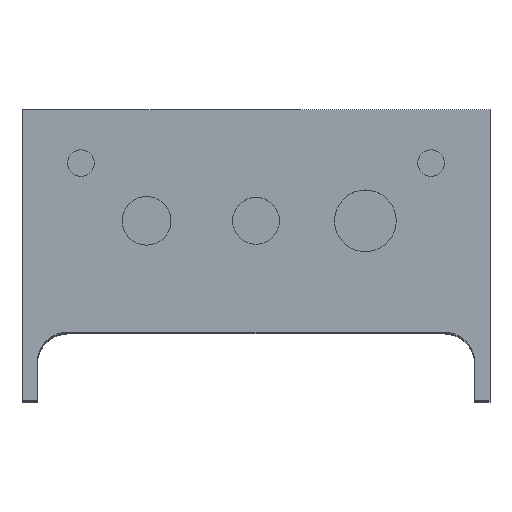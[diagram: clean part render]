
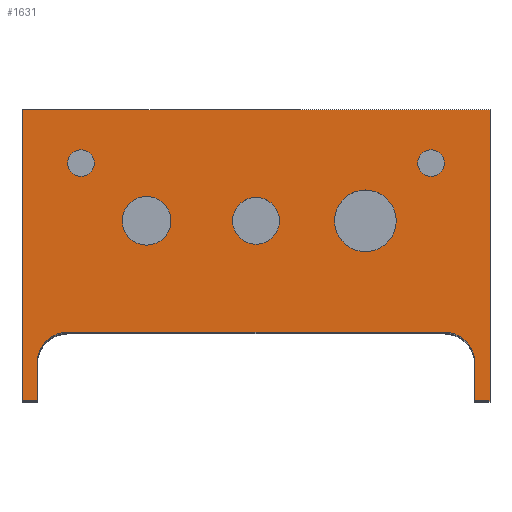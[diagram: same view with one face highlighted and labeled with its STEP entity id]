
A CAD part, top view. The second image highlights one B-rep face of the part: STEP entity #1631.
In plain terms, the highlighted planar face has unit normal (0, 0, 1).
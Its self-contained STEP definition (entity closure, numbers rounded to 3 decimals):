
#40=FACE_BOUND('',#320,.T.);
#41=FACE_BOUND('',#321,.T.);
#42=FACE_BOUND('',#322,.T.);
#43=FACE_BOUND('',#323,.T.);
#44=FACE_BOUND('',#324,.T.);
#81=CIRCLE('',#1762,6.15);
#83=CIRCLE('',#1765,6.4);
#85=CIRCLE('',#1768,8.1);
#87=CIRCLE('',#1771,3.5);
#89=CIRCLE('',#1774,3.5);
#109=CIRCLE('',#1813,8.);
#110=CIRCLE('',#1814,8.);
#221=FACE_OUTER_BOUND('',#319,.T.);
#319=EDGE_LOOP('',(#1409,#1410,#1411,#1412,#1413,#1414,#1415,#1416,#1417,
#1418));
#320=EDGE_LOOP('',(#1419));
#321=EDGE_LOOP('',(#1420));
#322=EDGE_LOOP('',(#1421));
#323=EDGE_LOOP('',(#1422));
#324=EDGE_LOOP('',(#1423));
#468=LINE('',#2671,#635);
#492=LINE('',#2739,#659);
#493=LINE('',#2740,#660);
#494=LINE('',#2742,#661);
#495=LINE('',#2744,#662);
#496=LINE('',#2746,#663);
#497=LINE('',#2750,#664);
#498=LINE('',#2753,#665);
#635=VECTOR('',#2176,10.);
#659=VECTOR('',#2242,10.);
#660=VECTOR('',#2243,10.);
#661=VECTOR('',#2244,10.);
#662=VECTOR('',#2245,10.);
#663=VECTOR('',#2246,10.);
#664=VECTOR('',#2249,10.);
#665=VECTOR('',#2252,10.);
#757=VERTEX_POINT('',#2568);
#759=VERTEX_POINT('',#2574);
#761=VERTEX_POINT('',#2580);
#763=VERTEX_POINT('',#2586);
#765=VERTEX_POINT('',#2592);
#796=VERTEX_POINT('',#2668);
#797=VERTEX_POINT('',#2670);
#819=VERTEX_POINT('',#2737);
#820=VERTEX_POINT('',#2738);
#821=VERTEX_POINT('',#2741);
#822=VERTEX_POINT('',#2743);
#823=VERTEX_POINT('',#2745);
#824=VERTEX_POINT('',#2747);
#825=VERTEX_POINT('',#2749);
#826=VERTEX_POINT('',#2751);
#948=EDGE_CURVE('',#757,#757,#81,.T.);
#951=EDGE_CURVE('',#759,#759,#83,.T.);
#954=EDGE_CURVE('',#761,#761,#85,.T.);
#957=EDGE_CURVE('',#763,#763,#87,.T.);
#960=EDGE_CURVE('',#765,#765,#89,.T.);
#999=EDGE_CURVE('',#797,#796,#468,.T.);
#1032=EDGE_CURVE('',#819,#820,#492,.T.);
#1033=EDGE_CURVE('',#820,#797,#493,.T.);
#1034=EDGE_CURVE('',#796,#821,#494,.T.);
#1035=EDGE_CURVE('',#821,#822,#495,.T.);
#1036=EDGE_CURVE('',#822,#823,#496,.T.);
#1037=EDGE_CURVE('',#823,#824,#109,.T.);
#1038=EDGE_CURVE('',#824,#825,#497,.T.);
#1039=EDGE_CURVE('',#825,#826,#110,.T.);
#1040=EDGE_CURVE('',#826,#819,#498,.T.);
#1409=ORIENTED_EDGE('',*,*,#1032,.T.);
#1410=ORIENTED_EDGE('',*,*,#1033,.T.);
#1411=ORIENTED_EDGE('',*,*,#999,.T.);
#1412=ORIENTED_EDGE('',*,*,#1034,.T.);
#1413=ORIENTED_EDGE('',*,*,#1035,.T.);
#1414=ORIENTED_EDGE('',*,*,#1036,.T.);
#1415=ORIENTED_EDGE('',*,*,#1037,.T.);
#1416=ORIENTED_EDGE('',*,*,#1038,.T.);
#1417=ORIENTED_EDGE('',*,*,#1039,.T.);
#1418=ORIENTED_EDGE('',*,*,#1040,.T.);
#1419=ORIENTED_EDGE('',*,*,#948,.T.);
#1420=ORIENTED_EDGE('',*,*,#951,.T.);
#1421=ORIENTED_EDGE('',*,*,#954,.T.);
#1422=ORIENTED_EDGE('',*,*,#957,.T.);
#1423=ORIENTED_EDGE('',*,*,#960,.T.);
#1549=PLANE('',#1812);
#1631=ADVANCED_FACE('',(#221,#40,#41,#42,#43,#44),#1549,.T.);
#1762=AXIS2_PLACEMENT_3D('',#2569,#2084,#2085);
#1765=AXIS2_PLACEMENT_3D('',#2575,#2091,#2092);
#1768=AXIS2_PLACEMENT_3D('',#2581,#2098,#2099);
#1771=AXIS2_PLACEMENT_3D('',#2587,#2105,#2106);
#1774=AXIS2_PLACEMENT_3D('',#2593,#2112,#2113);
#1812=AXIS2_PLACEMENT_3D('',#2736,#2240,#2241);
#1813=AXIS2_PLACEMENT_3D('',#2748,#2247,#2248);
#1814=AXIS2_PLACEMENT_3D('',#2752,#2250,#2251);
#2084=DIRECTION('center_axis',(0.,0.,-1.));
#2085=DIRECTION('ref_axis',(1.,0.,0.));
#2091=DIRECTION('center_axis',(0.,0.,-1.));
#2092=DIRECTION('ref_axis',(1.,0.,0.));
#2098=DIRECTION('center_axis',(0.,0.,-1.));
#2099=DIRECTION('ref_axis',(1.,0.,0.));
#2105=DIRECTION('center_axis',(0.,0.,-1.));
#2106=DIRECTION('ref_axis',(1.,0.,0.));
#2112=DIRECTION('center_axis',(0.,0.,-1.));
#2113=DIRECTION('ref_axis',(1.,0.,0.));
#2176=DIRECTION('',(-1.,0.,0.));
#2240=DIRECTION('center_axis',(0.,0.,1.));
#2241=DIRECTION('ref_axis',(1.,0.,0.));
#2242=DIRECTION('',(1.,0.,0.));
#2243=DIRECTION('',(0.,1.,0.));
#2244=DIRECTION('',(0.,-1.,0.));
#2245=DIRECTION('',(1.,0.,0.));
#2246=DIRECTION('',(0.,1.,0.));
#2247=DIRECTION('center_axis',(0.,0.,-1.));
#2248=DIRECTION('ref_axis',(0.,1.,0.));
#2249=DIRECTION('',(1.,0.,0.));
#2250=DIRECTION('center_axis',(0.,0.,-1.));
#2251=DIRECTION('ref_axis',(1.,0.,0.));
#2252=DIRECTION('',(0.,-1.,0.));
#2568=CARTESIAN_POINT('',(51.35,25.25,64.));
#2569=CARTESIAN_POINT('Origin',(57.5,25.25,64.));
#2574=CARTESIAN_POINT('',(22.35,25.25,64.));
#2575=CARTESIAN_POINT('Origin',(28.75,25.25,64.));
#2580=CARTESIAN_POINT('',(78.15,25.25,64.));
#2581=CARTESIAN_POINT('Origin',(86.25,25.25,64.));
#2586=CARTESIAN_POINT('',(8.,40.4,64.));
#2587=CARTESIAN_POINT('Origin',(11.5,40.4,64.));
#2592=CARTESIAN_POINT('',(100.,40.4,64.));
#2593=CARTESIAN_POINT('Origin',(103.5,40.4,64.));
#2668=CARTESIAN_POINT('',(-4.,54.5,64.));
#2670=CARTESIAN_POINT('',(119.,54.5,64.));
#2671=CARTESIAN_POINT('',(-4.,54.5,64.));
#2736=CARTESIAN_POINT('Origin',(57.5,16.25,64.));
#2737=CARTESIAN_POINT('',(115.,-22.,64.));
#2738=CARTESIAN_POINT('',(119.,-22.,64.));
#2739=CARTESIAN_POINT('',(119.,-22.,64.));
#2740=CARTESIAN_POINT('',(119.,54.5,64.));
#2741=CARTESIAN_POINT('',(-4.,-22.,64.));
#2742=CARTESIAN_POINT('',(-4.,-22.,64.));
#2743=CARTESIAN_POINT('',(0.,-22.,64.));
#2744=CARTESIAN_POINT('',(0.,-22.,64.));
#2745=CARTESIAN_POINT('',(0.,-12.,64.));
#2746=CARTESIAN_POINT('',(0.,-12.,64.));
#2747=CARTESIAN_POINT('',(8.,-4.,64.));
#2748=CARTESIAN_POINT('Origin',(8.,-12.,64.));
#2749=CARTESIAN_POINT('',(107.,-4.,64.));
#2750=CARTESIAN_POINT('',(107.,-4.,64.));
#2751=CARTESIAN_POINT('',(115.,-12.,64.));
#2752=CARTESIAN_POINT('Origin',(107.,-12.,64.));
#2753=CARTESIAN_POINT('',(115.,-22.,64.));
